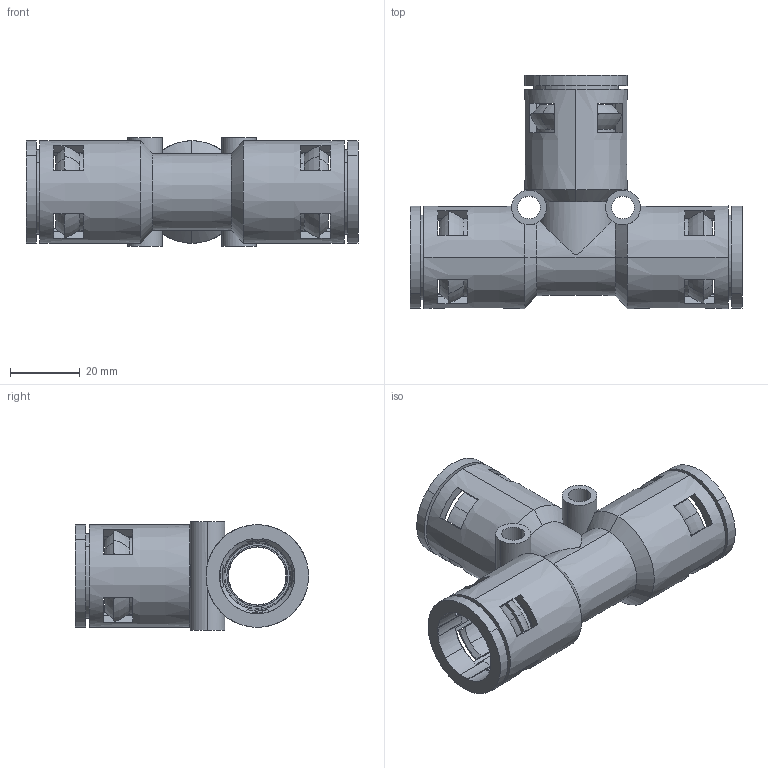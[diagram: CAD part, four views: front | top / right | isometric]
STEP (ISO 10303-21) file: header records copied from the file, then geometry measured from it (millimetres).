
FILE_DESCRIPTION (( 'STEP AP214' ), '1' );
FILE_NAME ('WQT-PA-AD21.2 2X21.2.STEP', '2017-12-13T02:45:04', ( 'c' ), ( 'Microsoft' ), 'SwSTEP 2.0', 'SolidWorks 2016', '' );
FILE_SCHEMA (( 'AUTOMOTIVE_DESIGN' ));
Length unit declared in the file: millimetre
Products named in the file (4): NSK-AD21.2; WQT-AD21.2-2X21.2-01; WQT-PA-AD21.2 2X21.2; GFD-AD21.2
Assembly tree (7 placements, depth 2):
  WQT-PA-AD21.2 2X21.2
    WQT-AD21.2-2X21.2-01
    NSK-AD21.2  x3
    GFD-AD21.2  x3
Bounding box: 95.47 x 67.1 x 31.3 mm (x, y, z)
Volume: 39501 mm3; surface area: 46276.5 mm2
Topology: 16 solids, 19 shells, 683 faces, 1643 edges, 987 vertices
Faces by surface type: cone 249, plane 239, torus 104, cylinder 91
Entity records: 10490 total; most frequent: CARTESIAN_POINT 2841, DIRECTION 1649, ORIENTED_EDGE 1518, EDGE_CURVE 759, AXIS2_PLACEMENT_3D 673, VERTEX_POINT 463, CIRCLE 354, EDGE_LOOP 352
